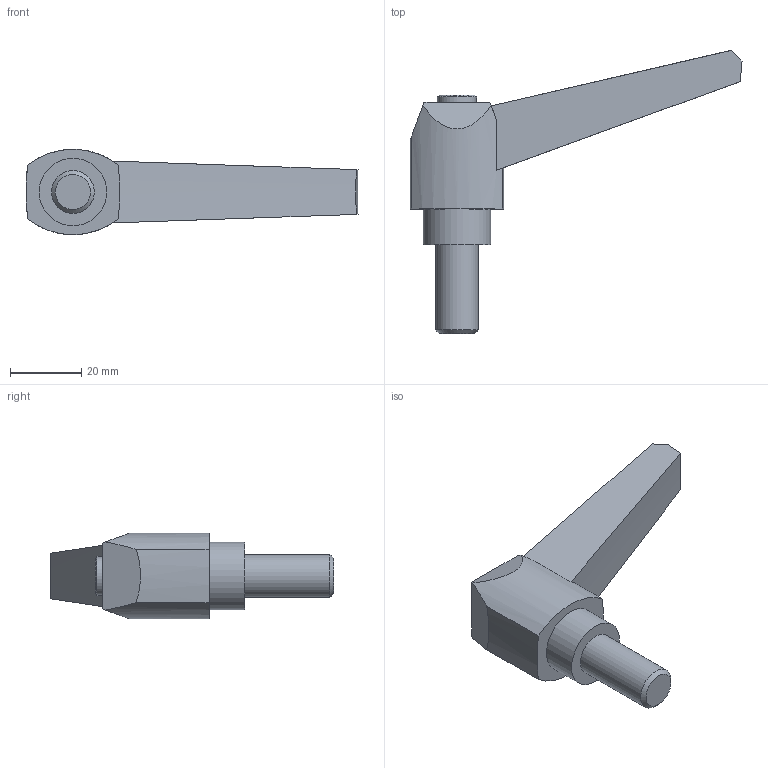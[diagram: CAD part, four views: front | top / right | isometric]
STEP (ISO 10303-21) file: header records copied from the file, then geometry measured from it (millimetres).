
FILE_DESCRIPTION( ( 'STEP AP203' ), '1' );
FILE_NAME( 'C:/Temp/Ganter_Step_05_03_2020/data/2_1/gn_500/gn_500_ms/Adjustable hand lever GN 500-80-M12-25-SW.stp', '2020-03-05T11:26:37', ( 'License CC BY-ND 4.0' ), ( 'CADENAS' ), ' ', 'PARTsolutions', ' ' );
FILE_SCHEMA( ( 'CONFIG_CONTROL_DESIGN' ) );
Length unit declared in the file: millimetre
Products named in the file (1): _Adjustable hand lever GN 500-80-M12-25-SW
Bounding box: 93.3 x 79.58 x 24 mm (x, y, z)
Volume: 35560.2 mm3; surface area: 8817.2 mm2
Topology: 1 solids, 1 shells, 24 faces, 56 edges, 37 vertices
Faces by surface type: plane 11, cylinder 7, cone 6
Full cylindrical faces by diameter (mm): 11 x1, 12 x1, 19 x1
Entity records: 709 total; most frequent: CARTESIAN_POINT 124, DIRECTION 118, ORIENTED_EDGE 100, EDGE_CURVE 50, AXIS2_PLACEMENT_3D 47, VERTEX_POINT 36, EDGE_LOOP 32, FACE_OUTER_BOUND 27
